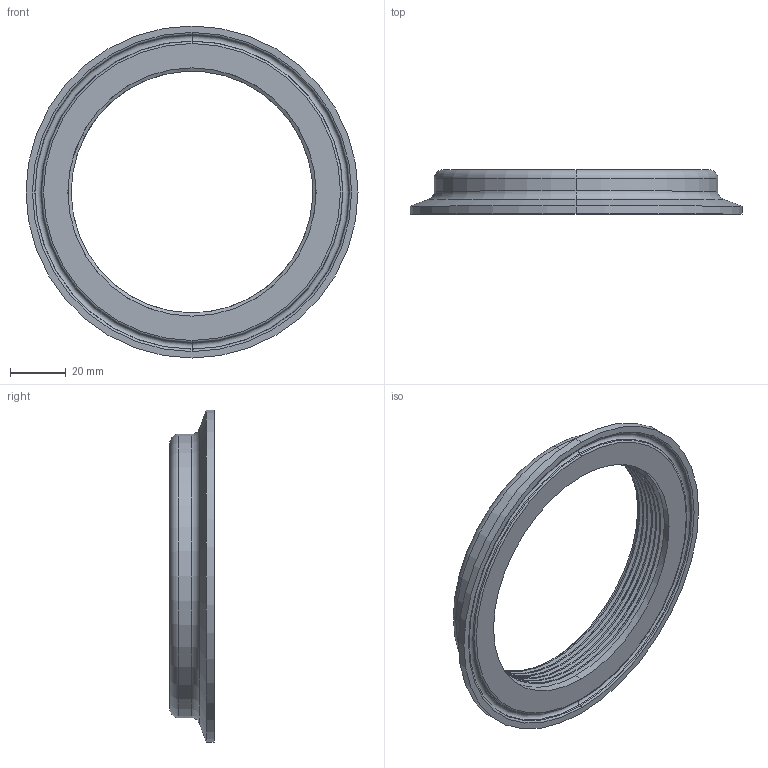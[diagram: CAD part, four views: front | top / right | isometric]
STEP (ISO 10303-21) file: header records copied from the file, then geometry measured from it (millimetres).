
FILE_DESCRIPTION (( 'STEP AP214' ), '1' );
FILE_NAME ('EG23B4.0X3.0 REV1.STEP', '2025-08-28T15:41:20', ( '' ), ( '' ), 'SwSTEP 2.0', 'SolidWorks 2023', '' );
FILE_SCHEMA (( 'AUTOMOTIVE_DESIGN' ));
Length unit declared in the file: inch
Products named in the file (1): EG23B4.0X3.0 REV1
Bounding box: 118.92 x 15.88 x 118.92 mm (x, y, z)
Volume: 43962.9 mm3; surface area: 20657.6 mm2
Topology: 1 solids, 1 shells, 42 faces, 99 edges, 60 vertices
Faces by surface type: cylinder 18, torus 10, cone 6, plane 5, bspline 3
Entity records: 2385 total; most frequent: CARTESIAN_POINT 1464, ORIENTED_EDGE 198, DIRECTION 185, EDGE_CURVE 99, AXIS2_PLACEMENT_3D 79, VERTEX_POINT 60, EDGE_LOOP 45, ADVANCED_FACE 42
